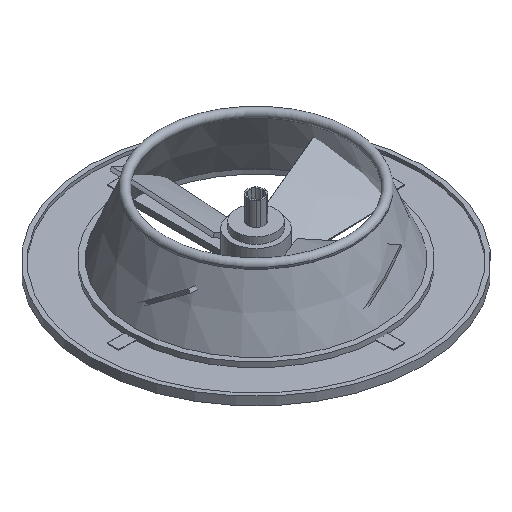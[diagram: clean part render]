
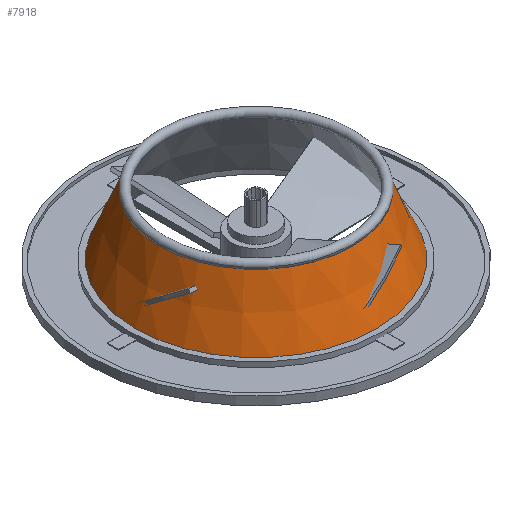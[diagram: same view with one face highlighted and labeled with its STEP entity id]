
A CAD part, isometric view. The second image highlights one B-rep face of the part: STEP entity #7918.
In plain terms, the highlighted conical face has half-angle 22.416 degrees and reference radius 74 mm.
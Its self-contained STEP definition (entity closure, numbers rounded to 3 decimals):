
#7760 = TOROIDAL_SURFACE('',#7761,56.,2.5);
#7761 = AXIS2_PLACEMENT_3D('',#7762,#7763,#7764);
#7762 = CARTESIAN_POINT('',(0.,0.,43.));
#7763 = DIRECTION('',(0.,0.,1.));
#7764 = DIRECTION('',(1.,0.,-0.));
#7831 = EDGE_CURVE('',#7832,#7832,#7834,.T.);
#7832 = VERTEX_POINT('',#7833);
#7833 = CARTESIAN_POINT('',(58.075,0.,
    41.606));
#7834 = SURFACE_CURVE('',#7835,(#7840,#7847),.PCURVE_S1.);
#7835 = CIRCLE('',#7836,58.075);
#7836 = AXIS2_PLACEMENT_3D('',#7837,#7838,#7839);
#7837 = CARTESIAN_POINT('',(0.,0.,41.606));
#7838 = DIRECTION('',(0.,0.,1.));
#7839 = DIRECTION('',(0.,-1.,0.));
#7840 = PCURVE('',#7760,#7841);
#7841 = DEFINITIONAL_REPRESENTATION('',(#7842),#7846);
#7842 = LINE('',#7843,#7844);
#7843 = CARTESIAN_POINT('',(-1.571,5.692));
#7844 = VECTOR('',#7845,1.);
#7845 = DIRECTION('',(1.,0.));
#7846 = ( GEOMETRIC_REPRESENTATION_CONTEXT(2) 
PARAMETRIC_REPRESENTATION_CONTEXT() REPRESENTATION_CONTEXT('2D SPACE',''
  ) );
#7847 = PCURVE('',#7848,#7853);
#7848 = CONICAL_SURFACE('',#7849,74.,0.391);
#7849 = AXIS2_PLACEMENT_3D('',#7850,#7851,#7852);
#7850 = CARTESIAN_POINT('',(0.,0.,3.));
#7851 = DIRECTION('',(-0.,-0.,-1.));
#7852 = DIRECTION('',(1.,0.,-0.));
#7853 = DEFINITIONAL_REPRESENTATION('',(#7854),#7858);
#7854 = LINE('',#7855,#7856);
#7855 = CARTESIAN_POINT('',(1.571,-38.606));
#7856 = VECTOR('',#7857,1.);
#7857 = DIRECTION('',(-1.,-0.));
#7858 = ( GEOMETRIC_REPRESENTATION_CONTEXT(2) 
PARAMETRIC_REPRESENTATION_CONTEXT() REPRESENTATION_CONTEXT('2D SPACE',''
  ) );
#7918 = ADVANCED_FACE('',(#7919),#7848,.T.);
#7919 = FACE_BOUND('',#7920,.T.);
#7920 = EDGE_LOOP('',(#7921,#7950,#7971,#7972));
#7921 = ORIENTED_EDGE('',*,*,#7922,.T.);
#7922 = EDGE_CURVE('',#7923,#7923,#7925,.T.);
#7923 = VERTEX_POINT('',#7924);
#7924 = CARTESIAN_POINT('',(72.763,0.,6.));
#7925 = SURFACE_CURVE('',#7926,(#7931,#7938),.PCURVE_S1.);
#7926 = CIRCLE('',#7927,72.763);
#7927 = AXIS2_PLACEMENT_3D('',#7928,#7929,#7930);
#7928 = CARTESIAN_POINT('',(0.,0.,6.));
#7929 = DIRECTION('',(0.,0.,1.));
#7930 = DIRECTION('',(1.,0.,-0.));
#7931 = PCURVE('',#7848,#7932);
#7932 = DEFINITIONAL_REPRESENTATION('',(#7933),#7937);
#7933 = LINE('',#7934,#7935);
#7934 = CARTESIAN_POINT('',(-0.,-3.));
#7935 = VECTOR('',#7936,1.);
#7936 = DIRECTION('',(-1.,-0.));
#7937 = ( GEOMETRIC_REPRESENTATION_CONTEXT(2) 
PARAMETRIC_REPRESENTATION_CONTEXT() REPRESENTATION_CONTEXT('2D SPACE',''
  ) );
#7938 = PCURVE('',#7939,#7944);
#7939 = PLANE('',#7940);
#7940 = AXIS2_PLACEMENT_3D('',#7941,#7942,#7943);
#7941 = CARTESIAN_POINT('',(0.,0.,6.));
#7942 = DIRECTION('',(0.,0.,1.));
#7943 = DIRECTION('',(1.,0.,0.));
#7944 = DEFINITIONAL_REPRESENTATION('',(#7945),#7949);
#7945 = CIRCLE('',#7946,72.763);
#7946 = AXIS2_PLACEMENT_2D('',#7947,#7948);
#7947 = CARTESIAN_POINT('',(0.,0.));
#7948 = DIRECTION('',(1.,0.));
#7949 = ( GEOMETRIC_REPRESENTATION_CONTEXT(2) 
PARAMETRIC_REPRESENTATION_CONTEXT() REPRESENTATION_CONTEXT('2D SPACE',''
  ) );
#7950 = ORIENTED_EDGE('',*,*,#7951,.T.);
#7951 = EDGE_CURVE('',#7923,#7832,#7952,.T.);
#7952 = SEAM_CURVE('',#7953,(#7957,#7964),.PCURVE_S1.);
#7953 = LINE('',#7954,#7955);
#7954 = CARTESIAN_POINT('',(74.,0.,3.));
#7955 = VECTOR('',#7956,1.);
#7956 = DIRECTION('',(-0.381,0.,0.924)
  );
#7957 = PCURVE('',#7848,#7958);
#7958 = DEFINITIONAL_REPRESENTATION('',(#7959),#7963);
#7959 = LINE('',#7960,#7961);
#7960 = CARTESIAN_POINT('',(0.,-0.));
#7961 = VECTOR('',#7962,1.);
#7962 = DIRECTION('',(-0.,-1.));
#7963 = ( GEOMETRIC_REPRESENTATION_CONTEXT(2) 
PARAMETRIC_REPRESENTATION_CONTEXT() REPRESENTATION_CONTEXT('2D SPACE',''
  ) );
#7964 = PCURVE('',#7848,#7965);
#7965 = DEFINITIONAL_REPRESENTATION('',(#7966),#7970);
#7966 = LINE('',#7967,#7968);
#7967 = CARTESIAN_POINT('',(-6.283,0.));
#7968 = VECTOR('',#7969,1.);
#7969 = DIRECTION('',(-0.,-1.));
#7970 = ( GEOMETRIC_REPRESENTATION_CONTEXT(2) 
PARAMETRIC_REPRESENTATION_CONTEXT() REPRESENTATION_CONTEXT('2D SPACE',''
  ) );
#7971 = ORIENTED_EDGE('',*,*,#7831,.F.);
#7972 = ORIENTED_EDGE('',*,*,#7951,.F.);
